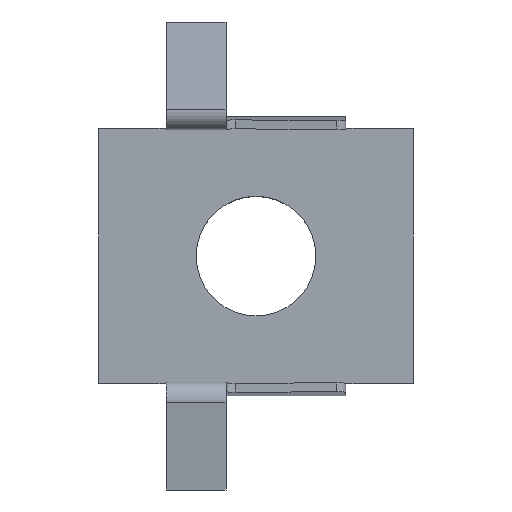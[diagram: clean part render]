
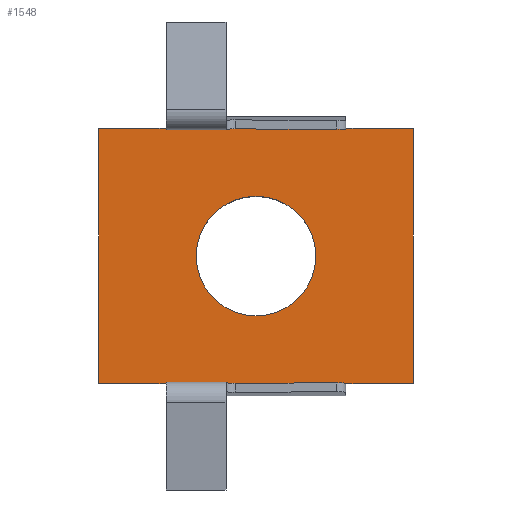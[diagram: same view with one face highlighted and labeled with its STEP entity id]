
A CAD part, top view. The second image highlights one B-rep face of the part: STEP entity #1548.
In plain terms, the highlighted planar face has unit normal (0, 0, 1).
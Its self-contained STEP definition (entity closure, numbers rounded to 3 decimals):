
#45 = CARTESIAN_POINT ( 'NONE',  ( 5., 7.085, 6. ) ) ;
#57 = DIRECTION ( 'NONE',  ( 0., 1., 0. ) ) ;
#62 = CARTESIAN_POINT ( 'NONE',  ( 0., -7.085, 6. ) ) ;
#65 = ORIENTED_EDGE ( 'NONE', *, *, #760, .T. ) ;
#101 = LINE ( 'NONE', #815, #816 ) ;
#104 = VECTOR ( 'NONE', #57, 1000. ) ;
#107 = AXIS2_PLACEMENT_3D ( 'NONE', #236, #568, #2020 ) ;
#111 = FACE_BOUND ( 'NONE', #426, .T. ) ;
#112 = CARTESIAN_POINT ( 'NONE',  ( 0., 7.085, 6. ) ) ;
#185 = VECTOR ( 'NONE', #259, 1000. ) ;
#230 = DIRECTION ( 'NONE',  ( 1., 0., 0. ) ) ;
#236 = CARTESIAN_POINT ( 'NONE',  ( 0., 0., 6. ) ) ;
#251 = ORIENTED_EDGE ( 'NONE', *, *, #1033, .F. ) ;
#258 = DIRECTION ( 'NONE',  ( -1., 0., 0. ) ) ;
#259 = DIRECTION ( 'NONE',  ( -1., 0., 0. ) ) ;
#376 = EDGE_CURVE ( 'NONE', #2226, #1864, #1482, .T. ) ;
#402 = VERTEX_POINT ( 'NONE', #1833 ) ;
#411 = CARTESIAN_POINT ( 'NONE',  ( -8.75, 0., 6. ) ) ;
#426 = EDGE_LOOP ( 'NONE', ( #2161, #1142 ) ) ;
#464 = CARTESIAN_POINT ( 'NONE',  ( 8.75, 7.1, 6. ) ) ;
#485 = FACE_OUTER_BOUND ( 'NONE', #1917, .T. ) ;
#494 = VERTEX_POINT ( 'NONE', #1163 ) ;
#518 = AXIS2_PLACEMENT_3D ( 'NONE', #1384, #840, #1566 ) ;
#536 = DIRECTION ( 'NONE',  ( -1., 0., 0. ) ) ;
#568 = DIRECTION ( 'NONE',  ( 0., 0., 1. ) ) ;
#589 = ORIENTED_EDGE ( 'NONE', *, *, #1081, .F. ) ;
#609 = CARTESIAN_POINT ( 'NONE',  ( 0., -7.085, 6. ) ) ;
#675 = DIRECTION ( 'NONE',  ( -1., 0., 0. ) ) ;
#683 = ORIENTED_EDGE ( 'NONE', *, *, #1810, .F. ) ;
#720 = CARTESIAN_POINT ( 'NONE',  ( 0., -7.085, 6. ) ) ;
#760 = EDGE_CURVE ( 'NONE', #817, #2320, #2087, .T. ) ;
#767 = LINE ( 'NONE', #411, #1501 ) ;
#815 = CARTESIAN_POINT ( 'NONE',  ( 0., 7.085, 6. ) ) ;
#816 = VECTOR ( 'NONE', #230, 1000. ) ;
#817 = VERTEX_POINT ( 'NONE', #1597 ) ;
#834 = CARTESIAN_POINT ( 'NONE',  ( 8.75, 7.085, 6. ) ) ;
#840 = DIRECTION ( 'NONE',  ( 0., 0., 1. ) ) ;
#930 = LINE ( 'NONE', #62, #185 ) ;
#988 = CARTESIAN_POINT ( 'NONE',  ( 0., 7.085, 6. ) ) ;
#998 = VECTOR ( 'NONE', #258, 1000. ) ;
#1015 = DIRECTION ( 'NONE',  ( 0., 0., 1. ) ) ;
#1033 = EDGE_CURVE ( 'NONE', #1343, #2320, #2239, .T. ) ;
#1039 = DIRECTION ( 'NONE',  ( 1., 0., 0. ) ) ;
#1058 = EDGE_CURVE ( 'NONE', #1590, #494, #101, .T. ) ;
#1081 = EDGE_CURVE ( 'NONE', #494, #1343, #1578, .T. ) ;
#1084 = AXIS2_PLACEMENT_3D ( 'NONE', #1214, #1015, #675 ) ;
#1088 = LINE ( 'NONE', #720, #1995 ) ;
#1117 = CARTESIAN_POINT ( 'NONE',  ( 5., -7.085, 6. ) ) ;
#1128 = ORIENTED_EDGE ( 'NONE', *, *, #1058, .F. ) ;
#1138 = VERTEX_POINT ( 'NONE', #1956 ) ;
#1142 = ORIENTED_EDGE ( 'NONE', *, *, #1869, .F. ) ;
#1153 = ORIENTED_EDGE ( 'NONE', *, *, #1808, .F. ) ;
#1163 = CARTESIAN_POINT ( 'NONE',  ( -5., 7.085, 6. ) ) ;
#1214 = CARTESIAN_POINT ( 'NONE',  ( 0., 0., 6. ) ) ;
#1284 = DIRECTION ( 'NONE',  ( 0., 1., 0. ) ) ;
#1296 = CARTESIAN_POINT ( 'NONE',  ( -5., -7.085, 6. ) ) ;
#1323 = ORIENTED_EDGE ( 'NONE', *, *, #376, .F. ) ;
#1343 = VERTEX_POINT ( 'NONE', #45 ) ;
#1384 = CARTESIAN_POINT ( 'NONE',  ( 0., 0., 6. ) ) ;
#1458 = ORIENTED_EDGE ( 'NONE', *, *, #1700, .F. ) ;
#1482 = LINE ( 'NONE', #609, #998 ) ;
#1501 = VECTOR ( 'NONE', #1284, 1000. ) ;
#1548 = ADVANCED_FACE ( 'NONE', ( #485, #111 ), #1715, .T. ) ;
#1553 = CARTESIAN_POINT ( 'NONE',  ( -8.75, 7.085, 6. ) ) ;
#1566 = DIRECTION ( 'NONE',  ( 0., -1., 0. ) ) ;
#1575 = EDGE_CURVE ( 'NONE', #402, #1138, #1957, .T. ) ;
#1578 = LINE ( 'NONE', #112, #2101 ) ;
#1590 = VERTEX_POINT ( 'NONE', #1553 ) ;
#1597 = CARTESIAN_POINT ( 'NONE',  ( 8.75, -7.085, 6. ) ) ;
#1687 = CARTESIAN_POINT ( 'NONE',  ( -8.75, -7.085, 6. ) ) ;
#1692 = CIRCLE ( 'NONE', #107, 3.324 ) ;
#1700 = EDGE_CURVE ( 'NONE', #1864, #2231, #1088, .T. ) ;
#1715 = PLANE ( 'NONE',  #518 ) ;
#1716 = DIRECTION ( 'NONE',  ( 1., 0., 0. ) ) ;
#1808 = EDGE_CURVE ( 'NONE', #817, #2226, #930, .T. ) ;
#1810 = EDGE_CURVE ( 'NONE', #2231, #1590, #767, .T. ) ;
#1833 = CARTESIAN_POINT ( 'NONE',  ( 0., 3.324, 6. ) ) ;
#1864 = VERTEX_POINT ( 'NONE', #1296 ) ;
#1869 = EDGE_CURVE ( 'NONE', #1138, #402, #1692, .T. ) ;
#1917 = EDGE_LOOP ( 'NONE', ( #1153, #65, #251, #589, #1128, #683, #1458, #1323 ) ) ;
#1956 = CARTESIAN_POINT ( 'NONE',  ( 0., -3.324, 6. ) ) ;
#1957 = CIRCLE ( 'NONE', #1084, 3.324 ) ;
#1995 = VECTOR ( 'NONE', #536, 1000. ) ;
#2020 = DIRECTION ( 'NONE',  ( -1., 0., 0. ) ) ;
#2087 = LINE ( 'NONE', #464, #104 ) ;
#2101 = VECTOR ( 'NONE', #1039, 1000. ) ;
#2161 = ORIENTED_EDGE ( 'NONE', *, *, #1575, .F. ) ;
#2210 = VECTOR ( 'NONE', #1716, 1000. ) ;
#2226 = VERTEX_POINT ( 'NONE', #1117 ) ;
#2231 = VERTEX_POINT ( 'NONE', #1687 ) ;
#2239 = LINE ( 'NONE', #988, #2210 ) ;
#2320 = VERTEX_POINT ( 'NONE', #834 ) ;
